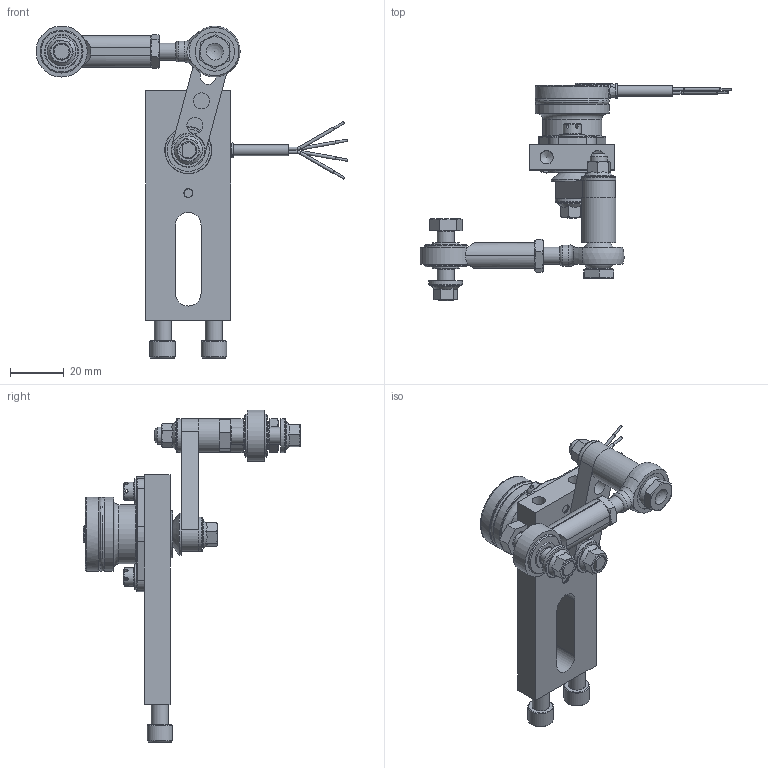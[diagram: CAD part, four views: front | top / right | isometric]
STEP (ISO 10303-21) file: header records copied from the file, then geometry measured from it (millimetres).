
FILE_DESCRIPTION(/* description */ ('Unknown'),/* implementation_level */ '2;1');
FILE_NAME(/* name */ '72-792, FLOOR MOUNT CONFIGURATION, FULL ASSEMBLY WITH SENSOR, 12-27-18',/* time_stamp */ '2018-12-27T10:08:53-08:00',/* author */ ('Unknown'),/* organization */ ('Unknown'),/* preprocessor_version */ 'ST-DEVELOPER v16.7',/* originating_system */ 'DEX',/* authorisation */ $);
FILE_SCHEMA (('AUTOMOTIVE_DESIGN {1 0 10303 214 3 1 1}'));
Length unit declared in the file: millimetre
Products named in the file (19): 5741; 5735; 5737; 5738; 5736; 5748; 5745; 5740; 5979; 5784; 5744; 5747; 5750; 5749; 5761; 5751; 5752; 4670; 6043
Assembly tree (26 placements, depth 2):
  5741
    5735
    5737
    5738  x2
    5736
    5748
    5745  x2
    5740
    5979
    5784
    5744  x2
    5747
    5750  x3
    5749
    5761  x2
    5751  x3
    5752
    4670
    6043
Bounding box: 116.32 x 81.24 x 123.8 mm (x, y, z)
Volume: 49704.4 mm3; surface area: 35990.6 mm2
Topology: 28 solids, 37 shells, 756 faces, 1734 edges, 1111 vertices
Faces by surface type: plane 283, cylinder 241, cone 127, torus 77, bspline 21, sphere 7
Full cylindrical faces by diameter (mm): 0.5 x4, 0.9 x4, 1.1 x8, 1.14 x2, 1.194 x12, 3.307 x2, 3.581 x2, 4 x1, 4.166 x2, 4.42 x2, 4.976 x4, 5.367 x2, 6 x1, 6.02 x3, 6.337 x1, 6.35 x13, 6.49 x1, 6.528 x1, 6.731 x3, 6.756 x2, 6.858 x2, 7.779 x1, 9.37 x8, 9.525 x4, 9.55 x1, 10 x1, 10.109 x1, 10.5 x2, 10.668 x3, 12.7 x4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
Entity records: 21953 total; most frequent: CARTESIAN_POINT 4986, DIRECTION 2866, ORIENTED_EDGE 2378, AXIS2_PLACEMENT_3D 1239, EDGE_CURVE 1189, FACE_BOUND 947, EDGE_LOOP 941, VERTEX_POINT 862
